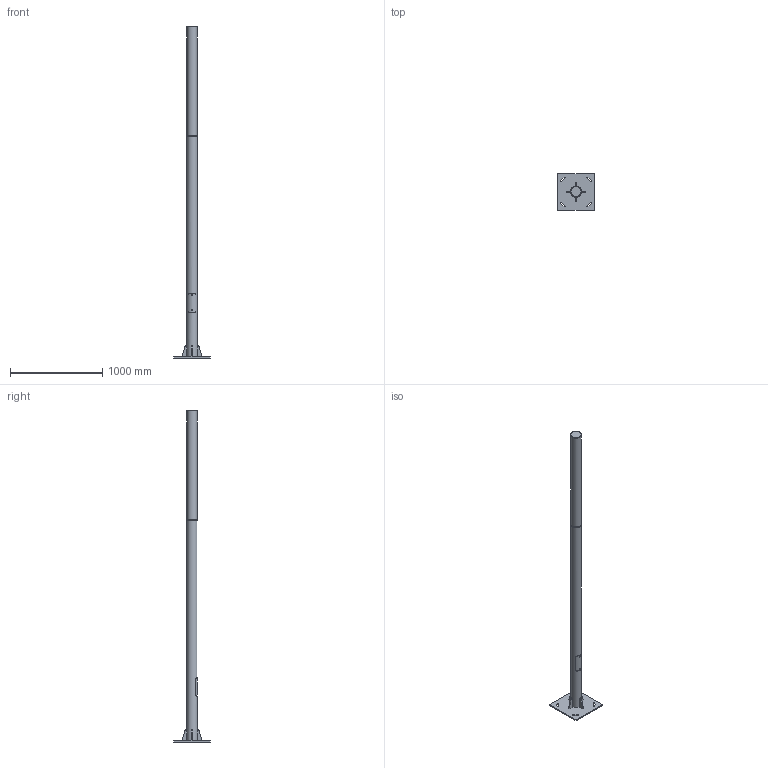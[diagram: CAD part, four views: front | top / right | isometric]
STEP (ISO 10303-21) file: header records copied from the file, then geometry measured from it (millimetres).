
FILE_DESCRIPTION(/* description */ (''),/* implementation_level */ '2;1');
FILE_NAME(/* name */ 'Lester 3600mm.step',/* time_stamp */ '2026-07-23T22:20:32+03:00',/* author */ (''),/* organization */ (''),/* preprocessor_version */ 'ST-DEVELOPER v20.1',/* originating_system */ 'Autodesk Translation Framework v15.8.0.0',/* authorisation */ '');
FILE_SCHEMA (('AUTOMOTIVE_DESIGN { 1 0 10303 214 3 1 1 }'));
Length unit declared in the file: millimetre
Products named in the file (1): Lester 3600mm
Bounding box: 400 x 400 x 3600 mm (x, y, z)
Volume: 38347018.6 mm3; surface area: 1722235.2 mm2
Topology: 8 solids, 8 shells, 105 faces, 244 edges, 159 vertices
Faces by surface type: plane 52, cylinder 27, bspline 24, cone 2
Full cylindrical faces by diameter (mm): 100 x1, 110 x1, 115 x1
Entity records: 5237 total; most frequent: CARTESIAN_POINT 2923, ORIENTED_EDGE 488, DIRECTION 411, EDGE_CURVE 244, VERTEX_POINT 159, LINE 137, VECTOR 137, AXIS2_PLACEMENT_3D 137
